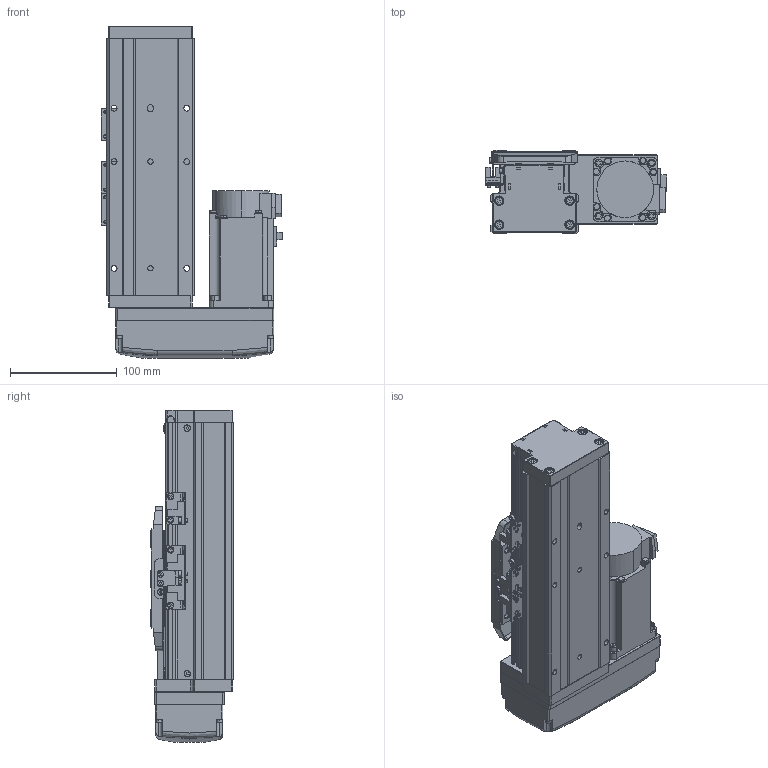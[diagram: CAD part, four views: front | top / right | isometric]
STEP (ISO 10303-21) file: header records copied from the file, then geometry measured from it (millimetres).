
FILE_DESCRIPTION (( 'STEP AP203' ), '1' );
FILE_NAME ('GTH8-50-BR-M20-C4.step', '2022-09-23T01:10:23', ( '微软用户' ), ( '微软中国' ), 'SwSTEP 2.0', 'SolidWorks 2020', '' );
FILE_SCHEMA (( 'CONFIG_CONTROL_DESIGN' ));
Length unit declared in the file: millimetre
Products named in the file (18): GTH50-023; GBT 70.3-M3℅6; GBT96.1-2002 3×0.8; GTH80-022; BTH-M3X5X6; GTH80-001_50; GBT 70.1-M3℅6; hg-kn43j_-s100_; GTH80-003; GBT 70.1-M4×16; CTHA86-015-1_CTHA86-015-2; GTH80-004; GTH80-028; CTHA86-033_M40B; GTH80-006; GTH50-024; GTH8-50-BR-M20-C4; GTH80-013
Assembly tree (57 placements, depth 2):
  GTH8-50-BR-M20-C4
    GTH80-001_50
    GTH80-003
    GTH80-004
    GTH80-006
    GTH80-013
    GBT 70.3-M3℅6  x4
    GTH80-022
    GBT 70.1-M3℅6  x14
    GBT 70.1-M4×16  x8
    GTH80-028  x2
    GTH50-024  x3
    GTH50-023  x3
    GBT96.1-2002 3×0.8  x6
    BTH-M3X5X6  x8
    hg-kn43j_-s100_
    CTHA86-015-1_CTHA86-015-2
    CTHA86-033_M40B
Bounding box: 169.7 x 78 x 311 mm (x, y, z)
Volume: 2031545.8 mm3; surface area: 279336.6 mm2
Topology: 59 solids, 59 shells, 2220 faces, 5115 edges, 3131 vertices
Faces by surface type: plane 1187, cylinder 591, cone 260, torus 166, bspline 8, sphere 8
Entity records: 40182 total; most frequent: CARTESIAN_POINT 7073, DIRECTION 6509, ORIENTED_EDGE 6048, EDGE_CURVE 3024, AXIS2_PLACEMENT_3D 2265, LINE 1979, VECTOR 1979, VERTEX_POINT 1906
